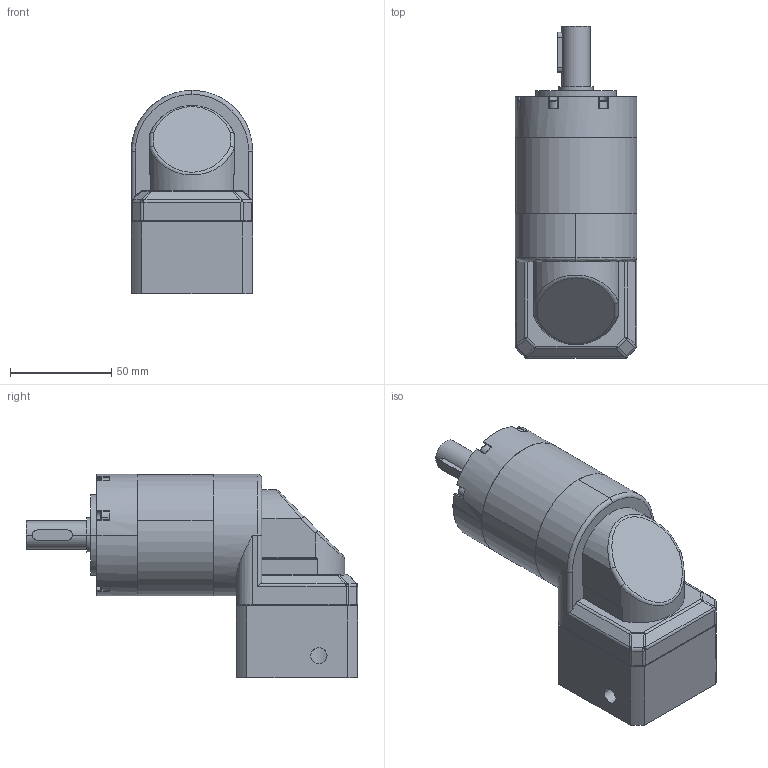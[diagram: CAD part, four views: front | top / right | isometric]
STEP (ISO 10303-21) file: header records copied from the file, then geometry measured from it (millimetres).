
FILE_DESCRIPTION (( 'STEP AP203' ), '1' );
FILE_NAME ('PVEA060-L2-14-50-70.STEP', '2026-09-21T06:44:39', ( 'Windows User' ), ( 'P R C' ), 'SwSTEP 2.0', 'SolidWorks 2016', '' );
FILE_SCHEMA (( 'CONFIG_CONTROL_DESIGN' ));
Length unit declared in the file: millimetre
Products named in the file (9): PVEA60 內齿圈_二级内齿圈; PVEA060-L2-14-50-70; B-PRL60 奻屳唳; PVEA60-薊粣; 双列角接触球轴承5203_2; PVEA60-蟀諉啣; 囀鞠褒蹟佪-M5℅16; 邧埴瑩  5x5x20; PVEA60-眊极_揤翉陔眊极
Assembly tree (8 placements, depth 2):
  PVEA060-L2-14-50-70
    B-PRL60 奻屳唳
    PVEA60-薊粣
    双列角接触球轴承5203_2
    PVEA60-蟀諉啣
    囀鞠褒蹟佪-M5℅16
    邧埴瑩  5x5x20
    PVEA60-眊极_揤翉陔眊极
    PVEA60 內齿圈_二级内齿圈
Bounding box: 60 x 164 x 100.5 mm (x, y, z)
Volume: 406964.6 mm3; surface area: 101490.6 mm2
Topology: 8 solids, 8 shells, 1191 faces, 3226 edges, 2097 vertices
Faces by surface type: plane 573, bspline 294, cylinder 274, cone 50
Entity records: 47495 total; most frequent: CARTESIAN_POINT 18339, ORIENTED_EDGE 6352, DIRECTION 5114, EDGE_CURVE 3176, VERTEX_POINT 2091, VECTOR 1752, LINE 1752, AXIS2_PLACEMENT_3D 1681
